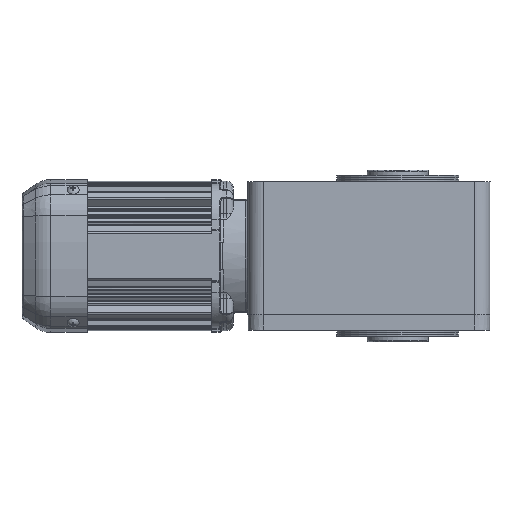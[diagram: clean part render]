
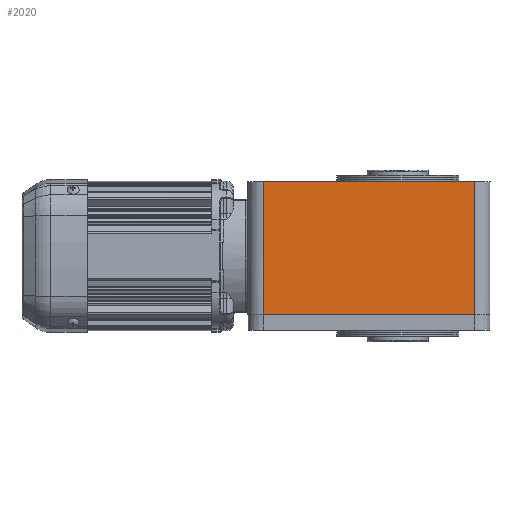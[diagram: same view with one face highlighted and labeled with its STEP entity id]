
A CAD part, top view. The second image highlights one B-rep face of the part: STEP entity #2020.
In plain terms, the highlighted planar face has unit normal (0, 0, 1).
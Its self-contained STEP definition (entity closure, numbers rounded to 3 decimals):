
#2020 = ADVANCED_FACE( '', ( #5171 ), #5172, .T. );
#5171 = FACE_OUTER_BOUND( '', #11594, .T. );
#5172 = PLANE( '', #11595 );
#11594 = EDGE_LOOP( '', ( #25027, #25028, #25029, #25030 ) );
#11595 = AXIS2_PLACEMENT_3D( '', #25031, #25032, #25033 );
#25027 = ORIENTED_EDGE( '', *, *, #35869, .F. );
#25028 = ORIENTED_EDGE( '', *, *, #35098, .T. );
#25029 = ORIENTED_EDGE( '', *, *, #35870, .T. );
#25030 = ORIENTED_EDGE( '', *, *, #35871, .T. );
#25031 = CARTESIAN_POINT( '', ( 24.759, -13.212, 30.405 ) );
#25032 = DIRECTION( '', ( 0., 0., 1. ) );
#25033 = DIRECTION( '', ( 1., 0., 0. ) );
#35098 = EDGE_CURVE( '', #40367, #40364, #40368, .T. );
#35869 = EDGE_CURVE( '', #40367, #40218, #41664, .T. );
#35870 = EDGE_CURVE( '', #40364, #41665, #41666, .T. );
#35871 = EDGE_CURVE( '', #41665, #40218, #41667, .T. );
#40218 = VERTEX_POINT( '', #48165 );
#40364 = VERTEX_POINT( '', #48467 );
#40367 = VERTEX_POINT( '', #48470 );
#40368 = LINE( '', #48471, #48472 );
#41664 = LINE( '', #50734, #50735 );
#41665 = VERTEX_POINT( '', #50736 );
#41666 = LINE( '', #50737, #50738 );
#41667 = B_SPLINE_CURVE_WITH_KNOTS( '', 1, ( #50739, #50740 ), .UNSPECIFIED., .F., .F., ( 2, 2 ), ( 0., 1. ), .UNSPECIFIED. );
#48165 = CARTESIAN_POINT( '', ( 24.759, -117.712, 30.401 ) );
#48467 = CARTESIAN_POINT( '', ( -140.241, -13.712, 30.405 ) );
#48470 = CARTESIAN_POINT( '', ( 24.759, -13.712, 30.405 ) );
#48471 = CARTESIAN_POINT( '', ( 24.759, -13.712, 30.405 ) );
#48472 = VECTOR( '', #60199, 1000. );
#50734 = CARTESIAN_POINT( '', ( 24.759, -13.212, 30.405 ) );
#50735 = VECTOR( '', #61487, 1000. );
#50736 = CARTESIAN_POINT( '', ( -140.241, -117.712, 30.401 ) );
#50737 = CARTESIAN_POINT( '', ( -140.241, -13.212, 30.405 ) );
#50738 = VECTOR( '', #61488, 1000. );
#50739 = CARTESIAN_POINT( '', ( -140.241, -117.712, 30.405 ) );
#50740 = CARTESIAN_POINT( '', ( 24.759, -117.712, 30.405 ) );
#60199 = DIRECTION( '', ( -1., 0., 0. ) );
#61487 = DIRECTION( '', ( 0., -1., 0. ) );
#61488 = DIRECTION( '', ( 0., -1., 0. ) );
